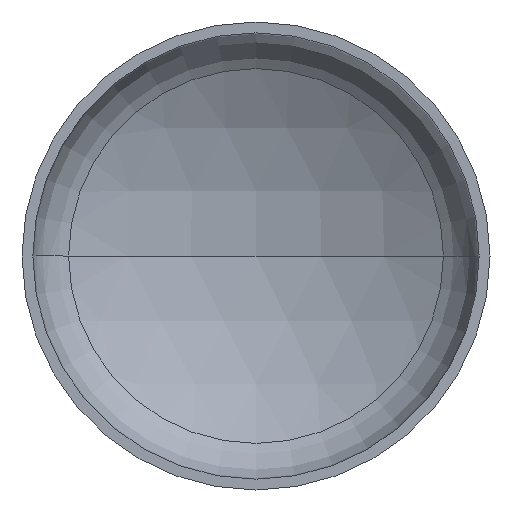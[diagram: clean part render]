
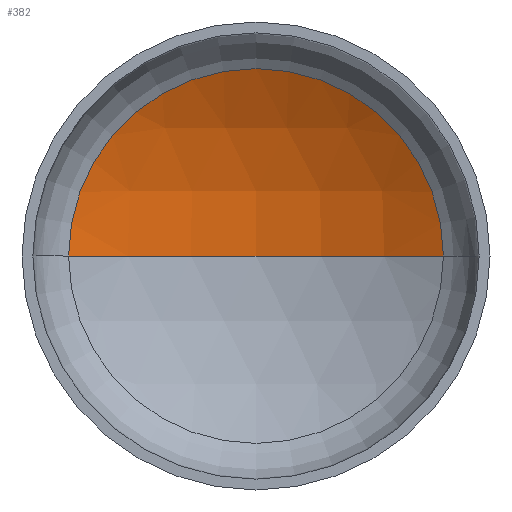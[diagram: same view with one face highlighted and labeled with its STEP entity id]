
A CAD part, front view. The second image highlights one B-rep face of the part: STEP entity #382.
In plain terms, the highlighted spherical face has radius 1280 mm.
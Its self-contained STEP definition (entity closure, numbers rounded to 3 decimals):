
#1 = AXIS2_PLACEMENT_3D ( 'NONE', #130, #255, #12 ) ;
#12 = DIRECTION ( 'NONE',  ( -1., 0., 0. ) ) ;
#16 = AXIS2_PLACEMENT_3D ( 'NONE', #68, #367, #286 ) ;
#17 = EDGE_LOOP ( 'NONE', ( #99, #76, #27 ) ) ;
#18 = AXIS2_PLACEMENT_3D ( 'NONE', #137, #314, #402 ) ;
#27 = ORIENTED_EDGE ( 'NONE', *, *, #353, .T. ) ;
#38 = AXIS2_PLACEMENT_3D ( 'NONE', #386, #246, #248 ) ;
#44 = VERTEX_POINT ( 'NONE', #236 ) ;
#54 = VERTEX_POINT ( 'NONE', #282 ) ;
#68 = CARTESIAN_POINT ( 'NONE',  ( 0., -776.047, 0. ) ) ;
#76 = ORIENTED_EDGE ( 'NONE', *, *, #355, .T. ) ;
#99 = ORIENTED_EDGE ( 'NONE', *, *, #356, .F. ) ;
#130 = CARTESIAN_POINT ( 'NONE',  ( 0., -776.047, 0. ) ) ;
#137 = CARTESIAN_POINT ( 'NONE',  ( 0., -776.047, 0. ) ) ;
#146 = VERTEX_POINT ( 'NONE', #337 ) ;
#228 = CIRCLE ( 'NONE', #38, 640.618 ) ;
#236 = CARTESIAN_POINT ( 'NONE',  ( -640.618, 332.108, 0. ) ) ;
#246 = DIRECTION ( 'NONE',  ( 0., -1., 0. ) ) ;
#248 = DIRECTION ( 'NONE',  ( 1., 0., 0. ) ) ;
#253 = FACE_OUTER_BOUND ( 'NONE', #17, .T. ) ;
#255 = DIRECTION ( 'NONE',  ( 0., 0., -1. ) ) ;
#258 = SPHERICAL_SURFACE ( 'NONE', #1, 1280. ) ;
#263 = CIRCLE ( 'NONE', #16, 1280. ) ;
#282 = CARTESIAN_POINT ( 'NONE',  ( 0., 503.953, 0. ) ) ;
#286 = DIRECTION ( 'NONE',  ( 1., 0., 0. ) ) ;
#314 = DIRECTION ( 'NONE',  ( 0., 0., -1. ) ) ;
#337 = CARTESIAN_POINT ( 'NONE',  ( 640.618, 332.108, 0. ) ) ;
#353 = EDGE_CURVE ( 'NONE', #146, #44, #228, .T. ) ;
#355 = EDGE_CURVE ( 'NONE', #54, #146, #392, .T. ) ;
#356 = EDGE_CURVE ( 'NONE', #54, #44, #263, .T. ) ;
#367 = DIRECTION ( 'NONE',  ( 0., 0., 1. ) ) ;
#382 = ADVANCED_FACE ( 'NONE', ( #253 ), #258, .F. ) ;
#386 = CARTESIAN_POINT ( 'NONE',  ( 0., 332.108, 0. ) ) ;
#392 = CIRCLE ( 'NONE', #18, 1280. ) ;
#402 = DIRECTION ( 'NONE',  ( -1., 0., 0. ) ) ;
